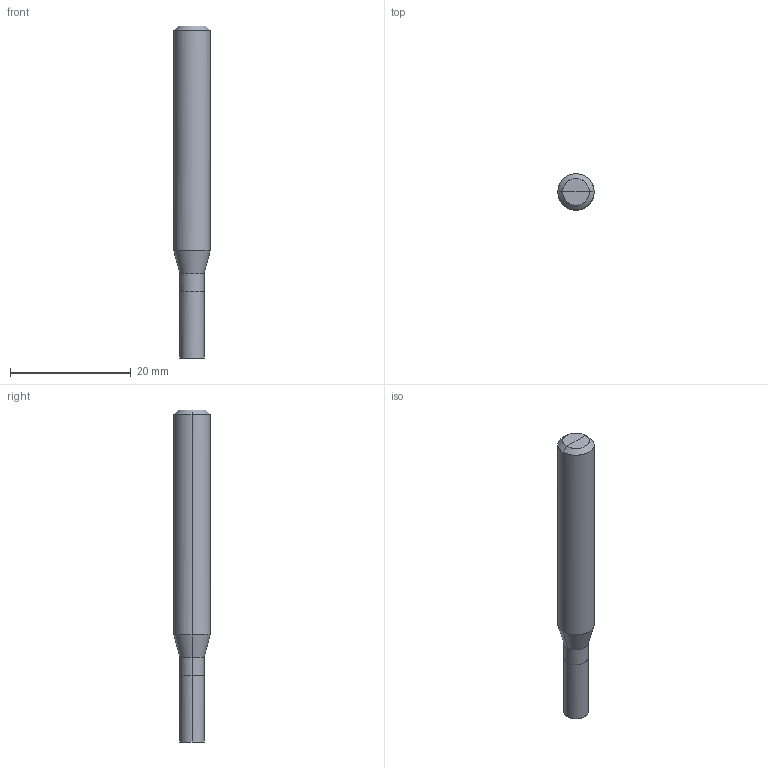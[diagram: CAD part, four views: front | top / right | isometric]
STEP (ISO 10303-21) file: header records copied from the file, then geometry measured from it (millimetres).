
FILE_DESCRIPTION(/* description */ (''),/* implementation_level */ '2;1');
FILE_NAME(/*name*/ '4061-4.0C',/*time_stamp*/'2021-6-23T8:37:40',/*author*/ ('ISBE GmbH'),/*organization*/ ('ISBE GmbH'),/*preprocessor_version*/ 'STEP IO v1.0',/*originating_system*/ '',/*authorisation*/ '');
FILE_SCHEMA (('AUTOMOTIVE_DESIGN'));
Length unit declared in the file: millimetre
Products named in the file (1): Document
Bounding box: 6 x 5.99 x 55 mm (x, y, z)
Surface area: 996.8 mm2 (no closed solid volume)
Topology: 0 solids, 18 shells, 18 faces, 76 edges, 72 vertices
Faces by surface type: bspline 18
Entity records: 1139 total; most frequent: CARTESIAN_POINT 806, VERTEX_POINT 64, EDGE_CURVE 64, ORIENTED_EDGE 64, EDGE_LOOP 18, FACE_OUTER_BOUND 18, ADVANCED_FACE 18, DIRECTION 16
